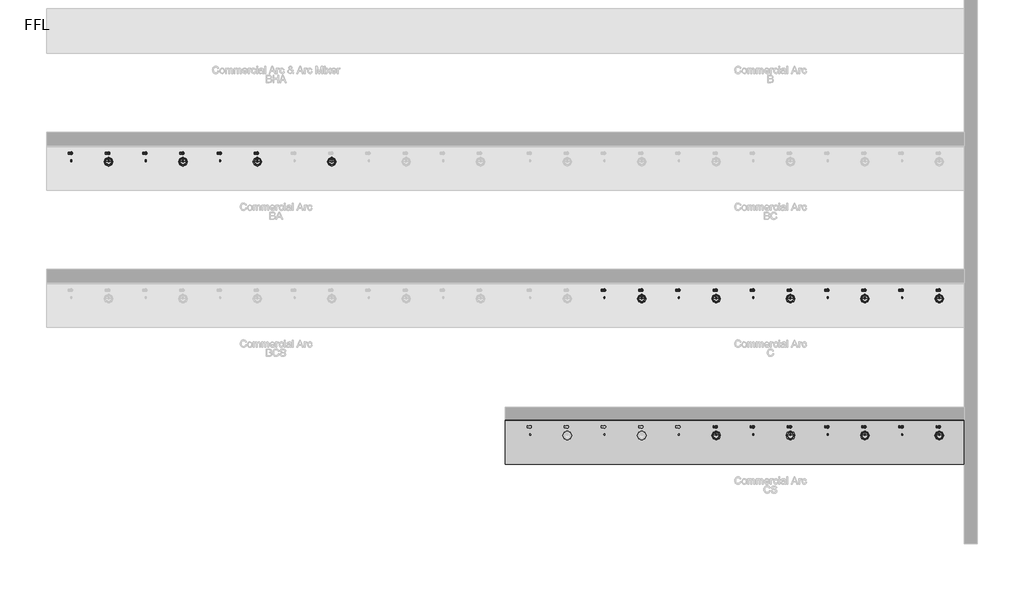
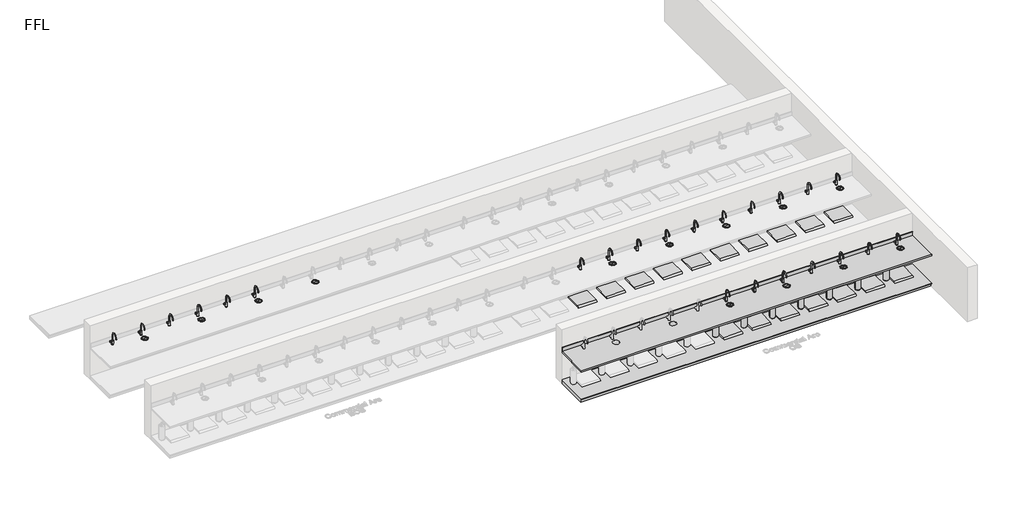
# One storey, part 3 of 10: 78 flow terminals, 2 furniture elements.
"""IFC4 building model written with IfcOpenShell, lengths in millimetres."""

from ifc_helpers import new_model, si_unit, frame, origin, place, context, project, spatial, polyline, circle_curve, transform, mapped, element, save
from ifc_brep_helpers import plane_surface, revolved_surface, advanced_brep
from components import flow_terminal_100_people_nickel_19c471c0, flow_terminal_100_people_matte_black_0dc622b1, bright_chrome_743c02cf, bright_chrome_7ff5033f, co2_gas_cylinder_20234e14, bcs_and_bc_6de74493, generic_plinth_900mm_24ad1541

model = new_model("IFC4")

# Units and contexts
model_context = context("Model", 3, world=origin())
ifc_project = project(units=[si_unit("LENGTHUNIT", "METRE", prefix="MILLI")], contexts=[model_context])

# Site, building, storey
site = spatial("IfcSite", under=ifc_project)
building = spatial("IfcBuilding", under=site)
storey = spatial("IfcBuildingStorey", under=building, Name="FFL", Elevation=0.0)

# Flow terminals
placement = place(None, origin())
flow_terminal_100_people_nickel_shape = flow_terminal_100_people_nickel_19c471c0(model_context)
element("IfcFlowTerminal", 1, ObjectType="PlumFixt_Zip Commercial_Arc_CS : 100 People - Bright Chrome", at=placement, inside=storey, context=model_context, shape_type="MappedRepresentation", body=[
    mapped(flow_terminal_100_people_nickel_shape, transform((11029.2647071, -3457.2606696, 0.0), x_axis=(1.0, 0.0, 0.0), y_axis=(0.0, 1.0, 0.0), z_axis=(0.0, 0.0, 1.0))),
])
element("IfcFlowTerminal", 2, ObjectType="PlumFixt_Zip Commercial_Arc_CS : 100 People - Gloss Black", at=placement, inside=storey, context=model_context, shape_type="MappedRepresentation", body=[
    mapped(flow_terminal_100_people_nickel_shape, transform((6529.2647071, -3457.2606696, 0.0), x_axis=(1.0, 0.0, 0.0), y_axis=(0.0, 1.0, 0.0), z_axis=(0.0, 0.0, 1.0))),
])
element("IfcFlowTerminal", 3, ObjectType="PlumFixt_Zip Commercial_Arc_C : 100 People - Gold", at=placement, inside=storey, context=model_context, shape_type="MappedRepresentation", body=[
    mapped(flow_terminal_100_people_nickel_shape, transform((7279.2647071, -697.2606696, 0.0), x_axis=(1.0, 0.0, 0.0), y_axis=(0.0, 1.0, 0.0), z_axis=(0.0, 0.0, 1.0))),
])
flow_terminal_100_people_matte_black_shape = flow_terminal_100_people_matte_black_0dc622b1(model_context)
element("IfcFlowTerminal", 4, ObjectType="PlumFixt_Zip Commercial_Arc_BA : 100 People - Gold", at=placement, inside=storey, context=model_context, shape_type="MappedRepresentation", body=[
    mapped(flow_terminal_100_people_matte_black_shape, transform((-1970.7352929, 2062.7393304, 0.0), x_axis=(1.0, 0.0, 0.0), y_axis=(0.0, 1.0, 0.0), z_axis=(0.0, 0.0, 1.0))),
])
element("IfcFlowTerminal", 5, ObjectType="PlumFixt_Zip Commercial_Arc_CS : 100 People - Gold", at=placement, inside=storey, context=model_context, shape_type="MappedRepresentation", body=[
    mapped(flow_terminal_100_people_nickel_shape, transform((7279.2647071, -3457.2606696, 0.0), x_axis=(1.0, 0.0, 0.0), y_axis=(0.0, 1.0, 0.0), z_axis=(0.0, 0.0, 1.0))),
])
element("IfcFlowTerminal", 6, ObjectType="PlumFixt_Zip Commercial_Arc_C : 100 People - Gunmetal", at=placement, inside=storey, context=model_context, shape_type="MappedRepresentation", body=[
    mapped(flow_terminal_100_people_nickel_shape, transform((8029.2647071, -697.2606696, 0.0), x_axis=(1.0, 0.0, 0.0), y_axis=(0.0, 1.0, 0.0), z_axis=(0.0, 0.0, 1.0))),
])
element("IfcFlowTerminal", 7, ObjectType="PlumFixt_Zip Commercial_Arc_CS : 100 People - Gunmetal", at=placement, inside=storey, context=model_context, shape_type="MappedRepresentation", body=[
    mapped(flow_terminal_100_people_nickel_shape, transform((8029.2647071, -3457.2606696, 0.0), x_axis=(1.0, 0.0, 0.0), y_axis=(0.0, 1.0, 0.0), z_axis=(0.0, 0.0, 1.0))),
])
element("IfcFlowTerminal", 8, ObjectType="PlumFixt_Zip Commercial_Arc_C : 100 People - Matte Black", at=placement, inside=storey, context=model_context, shape_type="MappedRepresentation", body=[
    mapped(flow_terminal_100_people_nickel_shape, transform((8779.2647071, -697.2606696, 0.0), x_axis=(1.0, 0.0, 0.0), y_axis=(0.0, 1.0, 0.0), z_axis=(0.0, 0.0, 1.0))),
])
element("IfcFlowTerminal", 9, ObjectType="PlumFixt_Zip Commercial_Arc_CS : 100 People - Matte Black", at=placement, inside=storey, context=model_context, shape_type="MappedRepresentation", body=[
    mapped(flow_terminal_100_people_nickel_shape, transform((8779.2647071, -3457.2606696, 0.0), x_axis=(1.0, 0.0, 0.0), y_axis=(0.0, 1.0, 0.0), z_axis=(0.0, 0.0, 1.0))),
])
element("IfcFlowTerminal", 10, ObjectType="PlumFixt_Zip Commercial_Arc_C : 100 People - Nickel", at=placement, inside=storey, context=model_context, shape_type="MappedRepresentation", body=[
    mapped(flow_terminal_100_people_nickel_shape, transform((9529.2647071, -697.2606696, 0.0), x_axis=(1.0, 0.0, 0.0), y_axis=(0.0, 1.0, 0.0), z_axis=(0.0, 0.0, 1.0))),
])
element("IfcFlowTerminal", 11, ObjectType="PlumFixt_Zip Commercial_Arc_CS : 100 People - Nickel", at=placement, inside=storey, context=model_context, shape_type="MappedRepresentation", body=[
    mapped(flow_terminal_100_people_nickel_shape, transform((9529.2647071, -3457.2606696, 0.0), x_axis=(1.0, 0.0, 0.0), y_axis=(0.0, 1.0, 0.0), z_axis=(0.0, 0.0, 1.0))),
])
element("IfcFlowTerminal", 12, ObjectType="PlumFixt_Zip Commercial_Arc_C : 100 People - Platinum", at=placement, inside=storey, context=model_context, shape_type="MappedRepresentation", body=[
    mapped(flow_terminal_100_people_nickel_shape, transform((10279.2647071, -697.2606696, 0.0), x_axis=(1.0, 0.0, 0.0), y_axis=(0.0, 1.0, 0.0), z_axis=(0.0, 0.0, 1.0))),
])
element("IfcFlowTerminal", 13, ObjectType="PlumFixt_Zip Commercial_Arc_CS : 100 People - Platinum", at=placement, inside=storey, context=model_context, shape_type="MappedRepresentation", body=[
    mapped(flow_terminal_100_people_nickel_shape, transform((10279.2647071, -3457.2606696, 0.0), x_axis=(1.0, 0.0, 0.0), y_axis=(0.0, 1.0, 0.0), z_axis=(0.0, 0.0, 1.0))),
])
element("IfcFlowTerminal", 14, ObjectType="PlumFixt_Zip Commercial_Arc_C : 100 People - Rose Gold", at=placement, inside=storey, context=model_context, shape_type="MappedRepresentation", body=[
    mapped(flow_terminal_100_people_nickel_shape, transform((11029.2647071, -697.2606696, 0.0), x_axis=(1.0, 0.0, 0.0), y_axis=(0.0, 1.0, 0.0), z_axis=(0.0, 0.0, 1.0))),
])
element("IfcFlowTerminal", 15, ObjectType="PlumFixt_Zip Commercial_Arc_C : 40 People - Brushed Nickel", at=placement, inside=storey, context=model_context, shape_type="MappedRepresentation", body=[
    mapped(flow_terminal_100_people_nickel_shape, transform((4279.2647071, -697.2606696, 0.0), x_axis=(1.0, 0.0, 0.0), y_axis=(0.0, 1.0, 0.0), z_axis=(0.0, 0.0, 1.0))),
])
element("IfcFlowTerminal", 16, ObjectType="PlumFixt_Zip Commercial_Arc_C : 40 People - Brushed Rose Gold", at=placement, inside=storey, context=model_context, shape_type="MappedRepresentation", body=[
    mapped(flow_terminal_100_people_nickel_shape, transform((5029.2647071, -697.2606696, 0.0), x_axis=(1.0, 0.0, 0.0), y_axis=(0.0, 1.0, 0.0), z_axis=(0.0, 0.0, 1.0))),
])
element("IfcFlowTerminal", 17, ObjectType="PlumFixt_Zip Commercial_Arc_C : 40 People - Brushed Rose Gold", at=placement, inside=storey, context=model_context, shape_type="MappedRepresentation", body=[
    mapped(flow_terminal_100_people_nickel_shape, transform((5779.2647071, -697.2606696, 0.0), x_axis=(1.0, 0.0, 0.0), y_axis=(0.0, 1.0, 0.0), z_axis=(0.0, 0.0, 1.0))),
])
element("IfcFlowTerminal", 18, ObjectType="PlumFixt_Zip Commercial_Arc_C : 40 People - Gloss Black", at=placement, inside=storey, context=model_context, shape_type="MappedRepresentation", body=[
    mapped(flow_terminal_100_people_nickel_shape, transform((6529.2647071, -697.2606696, 0.0), x_axis=(1.0, 0.0, 0.0), y_axis=(0.0, 1.0, 0.0), z_axis=(0.0, 0.0, 1.0))),
])
bright_chrome_shape = bright_chrome_743c02cf(model_context)
element("IfcFlowTerminal", 19, ObjectType="z_PlumFixt_Zip_Font : Bright Chrome", at=placement, inside=storey, context=model_context, shape_type="MappedRepresentation", body=[
    mapped(bright_chrome_shape, transform((-5720.7352929, 1991.2393304, 900.0), x_axis=(1.0000000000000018, 0.0, 0.0), y_axis=(0.0, 1.0000000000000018, 0.0), z_axis=(0.0, 0.0, 1.0))),
])
element("IfcFlowTerminal", 20, ObjectType="z_PlumFixt_Zip_Font : Bright Chrome", at=placement, inside=storey, context=model_context, shape_type="MappedRepresentation", body=[
    mapped(bright_chrome_shape, transform((-4220.7352929, 1991.2393304, 900.0), x_axis=(1.0000000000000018, 0.0, 0.0), y_axis=(0.0, 1.0000000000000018, 0.0), z_axis=(0.0, 0.0, 1.0))),
])
element("IfcFlowTerminal", 21, ObjectType="z_PlumFixt_Zip_Font : Bright Chrome", at=placement, inside=storey, context=model_context, shape_type="MappedRepresentation", body=[
    mapped(bright_chrome_shape, transform((-2720.7352929, 1991.2393304, 900.0), x_axis=(1.0000000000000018, 0.0, 0.0), y_axis=(0.0, 1.0000000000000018, 0.0), z_axis=(0.0, 0.0, 1.0))),
])
element("IfcFlowTerminal", 22, ObjectType="z_PlumFixt_Zip_Font : Bright Chrome", at=placement, inside=storey, context=model_context, shape_type="MappedRepresentation", body=[
    mapped(bright_chrome_shape, transform((-1220.7352929, 1991.2393304, 900.0), x_axis=(1.0000000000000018, 0.0, 0.0), y_axis=(0.0, 1.0000000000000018, 0.0), z_axis=(0.0, 0.0, 1.0))),
])
element("IfcFlowTerminal", 23, ObjectType="z_PlumFixt_Zip_Font : Bright Chrome", at=placement, inside=storey, context=model_context, shape_type="MappedRepresentation", body=[
    mapped(bright_chrome_shape, transform((6529.2647071, -3528.7606696, 900.0), x_axis=(1.0000000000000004, 0.0, 0.0), y_axis=(0.0, 1.0000000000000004, 0.0), z_axis=(0.0, 0.0, 1.0))),
])
element("IfcFlowTerminal", 24, ObjectType="z_PlumFixt_Zip_Font : Bright Chrome", at=placement, inside=storey, context=model_context, shape_type="MappedRepresentation", body=[
    mapped(bright_chrome_shape, transform((8029.2647071, -3528.7606696, 900.0), x_axis=(1.0000000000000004, 0.0, 0.0), y_axis=(0.0, 1.0000000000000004, 0.0), z_axis=(0.0, 0.0, 1.0))),
])
element("IfcFlowTerminal", 25, ObjectType="z_PlumFixt_Zip_Font : Bright Chrome", at=placement, inside=storey, context=model_context, shape_type="MappedRepresentation", body=[
    mapped(bright_chrome_shape, transform((9529.2647071, -3528.7606696, 900.0), x_axis=(1.0000000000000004, 0.0, 0.0), y_axis=(0.0, 1.0000000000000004, 0.0), z_axis=(0.0, 0.0, 1.0))),
])
element("IfcFlowTerminal", 26, ObjectType="z_PlumFixt_Zip_Font : Bright Chrome", at=placement, inside=storey, context=model_context, shape_type="MappedRepresentation", body=[
    mapped(bright_chrome_shape, transform((11029.2647071, -3528.7606696, 900.0), x_axis=(1.0000000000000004, 0.0, 0.0), y_axis=(0.0, 1.0000000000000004, 0.0), z_axis=(0.0, 0.0, 1.0))),
])
element("IfcFlowTerminal", 27, ObjectType="z_PlumFixt_Zip_Font : Bright Chrome", at=placement, inside=storey, context=model_context, shape_type="MappedRepresentation", body=[
    mapped(bright_chrome_shape, transform((5029.2647071, -768.7606696, 900.0), x_axis=(1.0000000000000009, 0.0, 0.0), y_axis=(0.0, 1.0000000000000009, 0.0), z_axis=(0.0, 0.0, 1.0))),
])
element("IfcFlowTerminal", 28, ObjectType="z_PlumFixt_Zip_Font : Bright Chrome", at=placement, inside=storey, context=model_context, shape_type="MappedRepresentation", body=[
    mapped(bright_chrome_shape, transform((6529.2647071, -768.7606696, 900.0), x_axis=(1.0000000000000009, 0.0, 0.0), y_axis=(0.0, 1.0000000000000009, 0.0), z_axis=(0.0, 0.0, 1.0))),
])
element("IfcFlowTerminal", 29, ObjectType="z_PlumFixt_Zip_Font : Bright Chrome", at=placement, inside=storey, context=model_context, shape_type="MappedRepresentation", body=[
    mapped(bright_chrome_shape, transform((8029.2647071, -768.7606696, 900.0), x_axis=(1.0000000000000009, 0.0, 0.0), y_axis=(0.0, 1.0000000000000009, 0.0), z_axis=(0.0, 0.0, 1.0))),
])
element("IfcFlowTerminal", 30, ObjectType="z_PlumFixt_Zip_Font : Bright Chrome", at=placement, inside=storey, context=model_context, shape_type="MappedRepresentation", body=[
    mapped(bright_chrome_shape, transform((9529.2647071, -768.7606696, 900.0), x_axis=(1.0000000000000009, 0.0, 0.0), y_axis=(0.0, 1.0000000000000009, 0.0), z_axis=(0.0, 0.0, 1.0))),
])
element("IfcFlowTerminal", 31, ObjectType="z_PlumFixt_Zip_Font : Bright Chrome", at=placement, inside=storey, context=model_context, shape_type="MappedRepresentation", body=[
    mapped(bright_chrome_shape, transform((11029.2647071, -768.7606696, 900.0), x_axis=(1.0000000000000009, 0.0, 0.0), y_axis=(0.0, 1.0000000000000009, 0.0), z_axis=(0.0, 0.0, 1.0))),
])
bright_chrome_2_shape = bright_chrome_7ff5033f(model_context)
element("IfcFlowTerminal", 32, ObjectType="z_PlumFixt_Zip_Arc : Bright Chrome", at=placement, inside=storey, context=model_context, shape_type="MappedRepresentation", body=[
    mapped(bright_chrome_2_shape, transform((-6487.7352929, 2090.7393304, 900.0), x_axis=(1.0000000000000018, 0.0, 0.0), y_axis=(0.0, 1.0000000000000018, 0.0), z_axis=(0.0, 0.0, 1.0))),
])
element("IfcFlowTerminal", 33, ObjectType="z_PlumFixt_Zip_Arc : Bright Chrome", at=placement, inside=storey, context=model_context, shape_type="MappedRepresentation", body=[
    mapped(bright_chrome_2_shape, transform((11012.2647071, -3429.2606696, 900.0), x_axis=(1.0000000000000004, 0.0, 0.0), y_axis=(0.0, 1.0000000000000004, 0.0), z_axis=(0.0, 0.0, 1.0))),
])
element("IfcFlowTerminal", 34, ObjectType="z_PlumFixt_Zip_Arc : Brushed Chrome", at=placement, inside=storey, context=model_context, shape_type="MappedRepresentation", body=[
    mapped(bright_chrome_2_shape, transform((-5737.7352929, 2090.7393304, 900.0), x_axis=(1.0000000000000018, 0.0, 0.0), y_axis=(0.0, 1.0000000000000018, 0.0), z_axis=(0.0, 0.0, 1.0))),
])
element("IfcFlowTerminal", 35, ObjectType="z_PlumFixt_Zip_Arc : Brushed Gold", at=placement, inside=storey, context=model_context, shape_type="MappedRepresentation", body=[
    mapped(bright_chrome_2_shape, transform((-4987.7352929, 2090.7393304, 900.0), x_axis=(1.0000000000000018, 0.0, 0.0), y_axis=(0.0, 1.0000000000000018, 0.0), z_axis=(0.0, 0.0, 1.0))),
])
element("IfcFlowTerminal", 36, ObjectType="z_PlumFixt_Zip_Arc : Brushed Nickel", at=placement, inside=storey, context=model_context, shape_type="MappedRepresentation", body=[
    mapped(bright_chrome_2_shape, transform((-4237.7352929, 2090.7393304, 900.0), x_axis=(1.0000000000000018, 0.0, 0.0), y_axis=(0.0, 1.0000000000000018, 0.0), z_axis=(0.0, 0.0, 1.0))),
])
element("IfcFlowTerminal", 37, ObjectType="z_PlumFixt_Zip_Arc : Brushed Rose Gold", at=placement, inside=storey, context=model_context, shape_type="MappedRepresentation", body=[
    mapped(bright_chrome_2_shape, transform((-3487.7352929, 2090.7393304, 900.0), x_axis=(1.0000000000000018, 0.0, 0.0), y_axis=(0.0, 1.0000000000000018, 0.0), z_axis=(0.0, 0.0, 1.0))),
])
co2_gas_cylinder_shape = co2_gas_cylinder_20234e14(model_context)
element("IfcFlowTerminal", 38, ObjectType="z_PlumFixt_Zip_CO2 Gas Cylinder : CO2 Gas Cylinder", at=placement, inside=storey, context=model_context, shape_type="MappedRepresentation", body=[
    mapped(co2_gas_cylinder_shape, transform((6191.2647071, -3536.7606696, 100.0), x_axis=(-1.0, 0.0, 0.0), y_axis=(0.0, -1.0, 0.0), z_axis=(0.0, 0.0, 1.0))),
])
element("IfcFlowTerminal", 39, ObjectType="z_PlumFixt_Zip_CO2 Gas Cylinder : CO2 Gas Cylinder", at=placement, inside=storey, context=model_context, shape_type="MappedRepresentation", body=[
    mapped(co2_gas_cylinder_shape, transform((6941.2647071, -3536.7606696, 100.0), x_axis=(-1.0, 0.0, 0.0), y_axis=(0.0, -1.0, 0.0), z_axis=(0.0, 0.0, 1.0))),
])
element("IfcFlowTerminal", 40, ObjectType="z_PlumFixt_Zip_CO2 Gas Cylinder : CO2 Gas Cylinder", at=placement, inside=storey, context=model_context, shape_type="MappedRepresentation", body=[
    mapped(co2_gas_cylinder_shape, transform((7691.2647071, -3536.7606696, 100.0), x_axis=(-1.0, 0.0, 0.0), y_axis=(0.0, -1.0, 0.0), z_axis=(0.0, 0.0, 1.0))),
])
element("IfcFlowTerminal", 41, ObjectType="z_PlumFixt_Zip_CO2 Gas Cylinder : CO2 Gas Cylinder", at=placement, inside=storey, context=model_context, shape_type="MappedRepresentation", body=[
    mapped(co2_gas_cylinder_shape, transform((8441.2647071, -3536.7606696, 100.0), x_axis=(-1.0, 0.0, 0.0), y_axis=(0.0, -1.0, 0.0), z_axis=(0.0, 0.0, 1.0))),
])
element("IfcFlowTerminal", 42, ObjectType="z_PlumFixt_Zip_CO2 Gas Cylinder : CO2 Gas Cylinder", at=placement, inside=storey, context=model_context, shape_type="MappedRepresentation", body=[
    mapped(co2_gas_cylinder_shape, transform((9191.2647071, -3536.7606696, 100.0), x_axis=(-1.0, 0.0, 0.0), y_axis=(0.0, -1.0, 0.0), z_axis=(0.0, 0.0, 1.0))),
])
element("IfcFlowTerminal", 43, ObjectType="z_PlumFixt_Zip_CO2 Gas Cylinder : CO2 Gas Cylinder", at=placement, inside=storey, context=model_context, shape_type="MappedRepresentation", body=[
    mapped(co2_gas_cylinder_shape, transform((9941.2647071, -3536.7606696, 100.0), x_axis=(-1.0, 0.0, 0.0), y_axis=(0.0, -1.0, 0.0), z_axis=(0.0, 0.0, 1.0))),
])
element("IfcFlowTerminal", 44, ObjectType="z_PlumFixt_Zip_CO2 Gas Cylinder : CO2 Gas Cylinder", at=placement, inside=storey, context=model_context, shape_type="MappedRepresentation", body=[
    mapped(co2_gas_cylinder_shape, transform((10691.2647071, -3536.7606696, 100.0), x_axis=(-1.0, 0.0, 0.0), y_axis=(0.0, -1.0, 0.0), z_axis=(0.0, 0.0, 1.0))),
])
bcs_and_bc_shape = bcs_and_bc_6de74493(model_context)
element("IfcFlowTerminal", 45, ObjectType="z_PlumFixt_Zip_Vent Tray : CS and C", at=placement, inside=storey, context=model_context, shape_type="MappedRepresentation", body=[
    mapped(bcs_and_bc_shape, transform((4279.2647071, -574.2606696, 100.0), x_axis=(1.0, 0.0, 0.0), y_axis=(0.0, 1.0, 0.0), z_axis=(0.0, 0.0, 1.0))),
])
element("IfcFlowTerminal", 46, ObjectType="z_PlumFixt_Zip_Vent Tray : CS and C", at=placement, inside=storey, context=model_context, shape_type="MappedRepresentation", body=[
    mapped(bcs_and_bc_shape, transform((5029.2647071, -574.2606696, 100.0), x_axis=(1.0, 0.0, 0.0), y_axis=(0.0, 1.0, 0.0), z_axis=(0.0, 0.0, 1.0))),
])
element("IfcFlowTerminal", 47, ObjectType="z_PlumFixt_Zip_Vent Tray : CS and C", at=placement, inside=storey, context=model_context, shape_type="MappedRepresentation", body=[
    mapped(bcs_and_bc_shape, transform((5779.2647071, -574.2606696, 100.0), x_axis=(1.0, 0.0, 0.0), y_axis=(0.0, 1.0, 0.0), z_axis=(0.0, 0.0, 1.0))),
])
element("IfcFlowTerminal", 48, ObjectType="z_PlumFixt_Zip_Vent Tray : CS and C", at=placement, inside=storey, context=model_context, shape_type="MappedRepresentation", body=[
    mapped(bcs_and_bc_shape, transform((6529.2647071, -574.2606696, 100.0), x_axis=(1.0, 0.0, 0.0), y_axis=(0.0, 1.0, 0.0), z_axis=(0.0, 0.0, 1.0))),
])
element("IfcFlowTerminal", 49, ObjectType="z_PlumFixt_Zip_Vent Tray : CS and C", at=placement, inside=storey, context=model_context, shape_type="MappedRepresentation", body=[
    mapped(bcs_and_bc_shape, transform((7279.2647071, -574.2606696, 100.0), x_axis=(1.0, 0.0, 0.0), y_axis=(0.0, 1.0, 0.0), z_axis=(0.0, 0.0, 1.0))),
])
element("IfcFlowTerminal", 50, ObjectType="z_PlumFixt_Zip_Vent Tray : CS and C", at=placement, inside=storey, context=model_context, shape_type="MappedRepresentation", body=[
    mapped(bcs_and_bc_shape, transform((8029.2647071, -574.2606696, 100.0), x_axis=(1.0, 0.0, 0.0), y_axis=(0.0, 1.0, 0.0), z_axis=(0.0, 0.0, 1.0))),
])
element("IfcFlowTerminal", 51, ObjectType="z_PlumFixt_Zip_Vent Tray : CS and C", at=placement, inside=storey, context=model_context, shape_type="MappedRepresentation", body=[
    mapped(bcs_and_bc_shape, transform((8779.2647071, -574.2606696, 100.0), x_axis=(1.0, 0.0, 0.0), y_axis=(0.0, 1.0, 0.0), z_axis=(0.0, 0.0, 1.0))),
])
element("IfcFlowTerminal", 52, ObjectType="z_PlumFixt_Zip_Vent Tray : CS and C", at=placement, inside=storey, context=model_context, shape_type="MappedRepresentation", body=[
    mapped(bcs_and_bc_shape, transform((9529.2647071, -574.2606696, 100.0), x_axis=(1.0, 0.0, 0.0), y_axis=(0.0, 1.0, 0.0), z_axis=(0.0, 0.0, 1.0))),
])
element("IfcFlowTerminal", 53, ObjectType="z_PlumFixt_Zip_Vent Tray : CS and C", at=placement, inside=storey, context=model_context, shape_type="MappedRepresentation", body=[
    mapped(bcs_and_bc_shape, transform((10279.2647071, -574.2606696, 100.0), x_axis=(1.0, 0.0, 0.0), y_axis=(0.0, 1.0, 0.0), z_axis=(0.0, 0.0, 1.0))),
])
element("IfcFlowTerminal", 54, ObjectType="z_PlumFixt_Zip_Vent Tray : CS and C", at=placement, inside=storey, context=model_context, shape_type="MappedRepresentation", body=[
    mapped(bcs_and_bc_shape, transform((11029.2647071, -574.2606696, 100.0), x_axis=(1.0, 0.0, 0.0), y_axis=(0.0, 1.0, 0.0), z_axis=(0.0, 0.0, 1.0))),
])
element("IfcFlowTerminal", 55, ObjectType="z_PlumFixt_Zip_Vent Tray : CS and C", at=placement, inside=storey, context=model_context, shape_type="MappedRepresentation", body=[
    mapped(bcs_and_bc_shape, transform((6529.2647071, -3334.2606696, 100.0), x_axis=(1.0, 0.0, 0.0), y_axis=(0.0, 1.0, 0.0), z_axis=(0.0, 0.0, 1.0))),
])
element("IfcFlowTerminal", 56, ObjectType="z_PlumFixt_Zip_Vent Tray : CS and C", at=placement, inside=storey, context=model_context, shape_type="MappedRepresentation", body=[
    mapped(bcs_and_bc_shape, transform((7279.2647071, -3334.2606696, 100.0), x_axis=(1.0, 0.0, 0.0), y_axis=(0.0, 1.0, 0.0), z_axis=(0.0, 0.0, 1.0))),
])
element("IfcFlowTerminal", 57, ObjectType="z_PlumFixt_Zip_Vent Tray : CS and C", at=placement, inside=storey, context=model_context, shape_type="MappedRepresentation", body=[
    mapped(bcs_and_bc_shape, transform((8029.2647071, -3334.2606696, 100.0), x_axis=(1.0, 0.0, 0.0), y_axis=(0.0, 1.0, 0.0), z_axis=(0.0, 0.0, 1.0))),
])
element("IfcFlowTerminal", 58, ObjectType="z_PlumFixt_Zip_Vent Tray : CS and C", at=placement, inside=storey, context=model_context, shape_type="MappedRepresentation", body=[
    mapped(bcs_and_bc_shape, transform((8779.2647071, -3334.2606696, 100.0), x_axis=(1.0, 0.0, 0.0), y_axis=(0.0, 1.0, 0.0), z_axis=(0.0, 0.0, 1.0))),
])
element("IfcFlowTerminal", 59, ObjectType="z_PlumFixt_Zip_Vent Tray : CS and C", at=placement, inside=storey, context=model_context, shape_type="MappedRepresentation", body=[
    mapped(bcs_and_bc_shape, transform((9529.2647071, -3334.2606696, 100.0), x_axis=(1.0, 0.0, 0.0), y_axis=(0.0, 1.0, 0.0), z_axis=(0.0, 0.0, 1.0))),
])
element("IfcFlowTerminal", 60, ObjectType="z_PlumFixt_Zip_Vent Tray : CS and C", at=placement, inside=storey, context=model_context, shape_type="MappedRepresentation", body=[
    mapped(bcs_and_bc_shape, transform((10279.2647071, -3334.2606696, 100.0), x_axis=(1.0, 0.0, 0.0), y_axis=(0.0, 1.0, 0.0), z_axis=(0.0, 0.0, 1.0))),
])
element("IfcFlowTerminal", 61, ObjectType="z_PlumFixt_Zip_Vent Tray : CS and C", at=placement, inside=storey, context=model_context, shape_type="MappedRepresentation", body=[
    mapped(bcs_and_bc_shape, transform((11029.2647071, -3334.2606696, 100.0), x_axis=(1.0, 0.0, 0.0), y_axis=(0.0, 1.0, 0.0), z_axis=(0.0, 0.0, 1.0))),
])
element("IfcFlowTerminal", 62, ObjectType="z_PlumFixt_Zip_Arc : Gloss Black", at=placement, inside=storey, context=model_context, shape_type="MappedRepresentation", body=[
    mapped(bright_chrome_2_shape, transform((-2737.7352929, 2090.7393304, 900.0), x_axis=(1.0000000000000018, 0.0, 0.0), y_axis=(0.0, 1.0000000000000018, 0.0), z_axis=(0.0, 0.0, 1.0))),
])
element("IfcFlowTerminal", 63, ObjectType="z_PlumFixt_Zip_Arc : Gloss Black", at=placement, inside=storey, context=model_context, shape_type="MappedRepresentation", body=[
    mapped(bright_chrome_2_shape, transform((6512.2647071, -3429.2606696, 900.0), x_axis=(1.0000000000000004, 0.0, 0.0), y_axis=(0.0, 1.0000000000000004, 0.0), z_axis=(0.0, 0.0, 1.0))),
])
element("IfcFlowTerminal", 64, ObjectType="z_PlumFixt_Zip_Arc : Gold", at=placement, inside=storey, context=model_context, shape_type="MappedRepresentation", body=[
    mapped(bright_chrome_2_shape, transform((7262.2647071, -3429.2606696, 900.0), x_axis=(1.0000000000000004, 0.0, 0.0), y_axis=(0.0, 1.0000000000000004, 0.0), z_axis=(0.0, 0.0, 1.0))),
])
element("IfcFlowTerminal", 65, ObjectType="z_PlumFixt_Zip_Arc : Gunmetal", at=placement, inside=storey, context=model_context, shape_type="MappedRepresentation", body=[
    mapped(bright_chrome_2_shape, transform((5012.2647071, -669.2606696, 900.0), x_axis=(1.0000000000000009, 0.0, 0.0), y_axis=(0.0, 1.0000000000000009, 0.0), z_axis=(0.0, 0.0, 1.0))),
])
element("IfcFlowTerminal", 66, ObjectType="z_PlumFixt_Zip_Arc : Gunmetal", at=placement, inside=storey, context=model_context, shape_type="MappedRepresentation", body=[
    mapped(bright_chrome_2_shape, transform((6512.2647071, -669.2606696, 900.0), x_axis=(1.0000000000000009, 0.0, 0.0), y_axis=(0.0, 1.0000000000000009, 0.0), z_axis=(0.0, 0.0, 1.0))),
])
element("IfcFlowTerminal", 67, ObjectType="z_PlumFixt_Zip_Arc : Gunmetal", at=placement, inside=storey, context=model_context, shape_type="MappedRepresentation", body=[
    mapped(bright_chrome_2_shape, transform((8012.2647071, -669.2606696, 900.0), x_axis=(1.0000000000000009, 0.0, 0.0), y_axis=(0.0, 1.0000000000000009, 0.0), z_axis=(0.0, 0.0, 1.0))),
])
element("IfcFlowTerminal", 68, ObjectType="z_PlumFixt_Zip_Arc : Gunmetal", at=placement, inside=storey, context=model_context, shape_type="MappedRepresentation", body=[
    mapped(bright_chrome_2_shape, transform((9512.2647071, -669.2606696, 900.0), x_axis=(1.0000000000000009, 0.0, 0.0), y_axis=(0.0, 1.0000000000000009, 0.0), z_axis=(0.0, 0.0, 1.0))),
])
element("IfcFlowTerminal", 69, ObjectType="z_PlumFixt_Zip_Arc : Gunmetal", at=placement, inside=storey, context=model_context, shape_type="MappedRepresentation", body=[
    mapped(bright_chrome_2_shape, transform((11012.2647071, -669.2606696, 900.0), x_axis=(1.0000000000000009, 0.0, 0.0), y_axis=(0.0, 1.0000000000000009, 0.0), z_axis=(0.0, 0.0, 1.0))),
])
element("IfcFlowTerminal", 70, ObjectType="z_PlumFixt_Zip_Arc : Gunmetal", at=placement, inside=storey, context=model_context, shape_type="MappedRepresentation", body=[
    mapped(bright_chrome_2_shape, transform((8012.2647071, -3429.2606696, 900.0), x_axis=(1.0000000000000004, 0.0, 0.0), y_axis=(0.0, 1.0000000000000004, 0.0), z_axis=(0.0, 0.0, 1.0))),
])
element("IfcFlowTerminal", 71, ObjectType="z_PlumFixt_Zip_Arc : Gunmetal", at=placement, inside=storey, context=model_context, shape_type="MappedRepresentation", body=[
    mapped(bright_chrome_2_shape, transform((4262.2647071, -669.2606696, 900.0), x_axis=(1.0000000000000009, 0.0, 0.0), y_axis=(0.0, 1.0000000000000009, 0.0), z_axis=(0.0, 0.0, 1.0))),
])
element("IfcFlowTerminal", 72, ObjectType="z_PlumFixt_Zip_Arc : Gunmetal", at=placement, inside=storey, context=model_context, shape_type="MappedRepresentation", body=[
    mapped(bright_chrome_2_shape, transform((5762.2647071, -669.2606696, 900.0), x_axis=(1.0000000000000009, 0.0, 0.0), y_axis=(0.0, 1.0000000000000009, 0.0), z_axis=(0.0, 0.0, 1.0))),
])
element("IfcFlowTerminal", 73, ObjectType="z_PlumFixt_Zip_Arc : Gunmetal", at=placement, inside=storey, context=model_context, shape_type="MappedRepresentation", body=[
    mapped(bright_chrome_2_shape, transform((7262.2647071, -669.2606696, 900.0), x_axis=(1.0000000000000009, 0.0, 0.0), y_axis=(0.0, 1.0000000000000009, 0.0), z_axis=(0.0, 0.0, 1.0))),
])
element("IfcFlowTerminal", 74, ObjectType="z_PlumFixt_Zip_Arc : Gunmetal", at=placement, inside=storey, context=model_context, shape_type="MappedRepresentation", body=[
    mapped(bright_chrome_2_shape, transform((8762.2647071, -669.2606696, 900.0), x_axis=(1.0000000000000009, 0.0, 0.0), y_axis=(0.0, 1.0000000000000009, 0.0), z_axis=(0.0, 0.0, 1.0))),
])
element("IfcFlowTerminal", 75, ObjectType="z_PlumFixt_Zip_Arc : Gunmetal", at=placement, inside=storey, context=model_context, shape_type="MappedRepresentation", body=[
    mapped(bright_chrome_2_shape, transform((10262.2647071, -669.2606696, 900.0), x_axis=(1.0000000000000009, 0.0, 0.0), y_axis=(0.0, 1.0000000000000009, 0.0), z_axis=(0.0, 0.0, 1.0))),
])
element("IfcFlowTerminal", 76, ObjectType="z_PlumFixt_Zip_Arc : Matte Black", at=placement, inside=storey, context=model_context, shape_type="MappedRepresentation", body=[
    mapped(bright_chrome_2_shape, transform((8762.2647071, -3429.2606696, 900.0), x_axis=(1.0000000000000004, 0.0, 0.0), y_axis=(0.0, 1.0000000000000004, 0.0), z_axis=(0.0, 0.0, 1.0))),
])
element("IfcFlowTerminal", 77, ObjectType="z_PlumFixt_Zip_Arc : Nickel", at=placement, inside=storey, context=model_context, shape_type="MappedRepresentation", body=[
    mapped(bright_chrome_2_shape, transform((9512.2647071, -3429.2606696, 900.0), x_axis=(1.0000000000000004, 0.0, 0.0), y_axis=(0.0, 1.0000000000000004, 0.0), z_axis=(0.0, 0.0, 1.0))),
])
element("IfcFlowTerminal", 78, ObjectType="z_PlumFixt_Zip_Arc : Platinum", at=placement, inside=storey, context=model_context, shape_type="MappedRepresentation", body=[
    mapped(bright_chrome_2_shape, transform((10262.2647071, -3429.2606696, 900.0), x_axis=(1.0000000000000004, 0.0, 0.0), y_axis=(0.0, 1.0000000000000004, 0.0), z_axis=(0.0, 0.0, 1.0))),
])

# Furniture
element("IfcFurniture", 79, ObjectType="Counter Top : 900mm Depth", at=placement, inside=storey, context=model_context, shape_type="AdvancedBrep", body=[
    advanced_brep(
    [(2280.2647071, -4091.7606696, 900.0), (11530.2647071, -4091.7606696, 900.0), (11530.2647071, -3210.8106696, 900.0), (2280.2647071, -3210.8106696, 900.0), (2756.2647071, -3341.7606696, 900.0), (2804.2647071, -3341.7606696, 900.0), (4256.2647071, -3341.7606696, 900.0), (4304.2647071, -3341.7606696, 900.0), (5006.2647071, -3341.7606696, 900.0), (5054.2647071, -3341.7606696, 900.0), (5098.4647071, -3513.7503538, 900.0), (4962.0647071, -3513.7503538, 900.0), (5756.2647071, -3341.7606696, 900.0), (5804.2647071, -3341.7606696, 900.0), (6506.2647071, -3341.7606696, 900.0), (6554.2647071, -3341.7606696, 900.0), (6598.4647071, -3513.7503538, 900.0), (6462.0647071, -3513.7503538, 900.0), (7256.2647071, -3341.7606696, 900.0), (7304.2647071, -3341.7606696, 900.0), (8006.2647071, -3341.7606696, 900.0), (8054.2647071, -3341.7606696, 900.0), (8098.4647071, -3513.7503538, 900.0), (7962.0647071, -3513.7503538, 900.0), (8756.2647071, -3341.7606696, 900.0), (8804.2647071, -3341.7606696, 900.0), (9506.2647071, -3341.7606696, 900.0), (9554.2647071, -3341.7606696, 900.0), (9598.4647071, -3513.7503538, 900.0), (9462.0647071, -3513.7503538, 900.0), (10256.2647071, -3341.7606696, 900.0), (10304.2647071, -3341.7606696, 900.0), (11006.2647071, -3341.7606696, 900.0), (11054.2647071, -3341.7606696, 900.0), (11098.4647071, -3513.7503538, 900.0), (10962.0647071, -3513.7503538, 900.0), (3506.2647071, -3341.7606696, 900.0), (3554.2647071, -3341.7606696, 900.0), (3598.4647071, -3513.7503538, 900.0), (3462.0647071, -3513.7503538, 900.0), (11530.2647071, -3191.7606696, 860.0), (11530.2647071, -4091.7606696, 860.0), (2280.2647071, -4091.7606696, 860.0), (2280.2647071, -3191.7606696, 860.0), (2804.2647071, -3341.7606696, 860.0), (2756.2647071, -3341.7606696, 860.0), (4304.2647071, -3341.7606696, 860.0), (4256.2647071, -3341.7606696, 860.0), (5054.2647071, -3341.7606696, 860.0), (5006.2647071, -3341.7606696, 860.0), (4962.0647071, -3513.7503538, 860.0), (5098.4647071, -3513.7503538, 860.0), (5804.2647071, -3341.7606696, 860.0), (5756.2647071, -3341.7606696, 860.0), (6554.2647071, -3341.7606696, 860.0), (6506.2647071, -3341.7606696, 860.0), (6462.0647071, -3513.7503538, 860.0), (6598.4647071, -3513.7503538, 860.0), (7304.2647071, -3341.7606696, 860.0), (7256.2647071, -3341.7606696, 860.0), (8054.2647071, -3341.7606696, 860.0), (8006.2647071, -3341.7606696, 860.0), (7962.0647071, -3513.7503538, 860.0), (8098.4647071, -3513.7503538, 860.0), (8804.2647071, -3341.7606696, 860.0), (8756.2647071, -3341.7606696, 860.0), (9554.2647071, -3341.7606696, 860.0), (9506.2647071, -3341.7606696, 860.0), (9462.0647071, -3513.7503538, 860.0), (9598.4647071, -3513.7503538, 860.0), (10304.2647071, -3341.7606696, 860.0), (10256.2647071, -3341.7606696, 860.0), (11054.2647071, -3341.7606696, 860.0), (11006.2647071, -3341.7606696, 860.0), (10962.0647071, -3513.7503538, 860.0), (11098.4647071, -3513.7503538, 860.0), (3554.2647071, -3341.7606696, 860.0), (3506.2647071, -3341.7606696, 860.0), (3462.0647071, -3513.7503538, 860.0), (3598.4647071, -3513.7503538, 860.0), (2280.2647071, -3191.7606696, 1001.6), (11530.2647071, -3191.7606696, 1001.6), (2280.2647071, -3210.8106696, 1001.6), (11530.2647071, -3210.8106696, 1001.6)],
    [
        (0, 1),
        (1, 2),
        (2, 3),
        (3, 0),
        (4, 5, circle_curve(frame((2780.2647071, -3341.7606696, 900.0), z_axis=(0.0, 0.0, -1.0), x_axis=(-1.0000000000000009, 0.0, 0.0)), 24.0)),
        (5, 4, circle_curve(frame((2780.2647071, -3341.7606696, 900.0), z_axis=(0.0, 0.0, -1.0), x_axis=(-1.0000000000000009, 0.0, 0.0)), 24.0)),
        (6, 7, circle_curve(frame((4280.2647071, -3341.7606696, 900.0), z_axis=(0.0, 0.0, -1.0), x_axis=(-1.0000000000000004, 0.0, 0.0)), 24.0)),
        (7, 6, circle_curve(frame((4280.2647071, -3341.7606696, 900.0), z_axis=(0.0, 0.0, -1.0), x_axis=(-1.0000000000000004, 0.0, 0.0)), 24.0)),
        (8, 9, circle_curve(frame((5030.2647071, -3341.7606696, 900.0), z_axis=(0.0, 0.0, -1.0), x_axis=(-1.0000000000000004, 0.0, 0.0)), 24.0)),
        (9, 8, circle_curve(frame((5030.2647071, -3341.7606696, 900.0), z_axis=(0.0, 0.0, -1.0), x_axis=(-1.0000000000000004, 0.0, 0.0)), 24.0)),
        (10, 11, circle_curve(frame((5030.2647071, -3513.7503538, 900.0), z_axis=(0.0, 0.0, -1.0), x_axis=(-1.0000000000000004, 0.0, 0.0)), 68.2)),
        (11, 10, circle_curve(frame((5030.2647071, -3513.7503538, 900.0), z_axis=(0.0, 0.0, -1.0), x_axis=(-1.0000000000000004, 0.0, 0.0)), 68.2)),
        (12, 13, circle_curve(frame((5780.2647071, -3341.7606696, 900.0), z_axis=(0.0, 0.0, -1.0), x_axis=(-1.0000000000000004, 0.0, 0.0)), 24.0)),
        (13, 12, circle_curve(frame((5780.2647071, -3341.7606696, 900.0), z_axis=(0.0, 0.0, -1.0), x_axis=(-1.0000000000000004, 0.0, 0.0)), 24.0)),
        (14, 15, circle_curve(frame((6530.2647071, -3341.7606696, 900.0), z_axis=(0.0, 0.0, -1.0), x_axis=(-1.0000000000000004, 0.0, 0.0)), 24.0)),
        (15, 14, circle_curve(frame((6530.2647071, -3341.7606696, 900.0), z_axis=(0.0, 0.0, -1.0), x_axis=(-1.0000000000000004, 0.0, 0.0)), 24.0)),
        (16, 17, circle_curve(frame((6530.2647071, -3513.7503538, 900.0), z_axis=(0.0, 0.0, -1.0), x_axis=(-1.0000000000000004, 0.0, 0.0)), 68.2)),
        (17, 16, circle_curve(frame((6530.2647071, -3513.7503538, 900.0), z_axis=(0.0, 0.0, -1.0), x_axis=(-1.0000000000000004, 0.0, 0.0)), 68.2)),
        (18, 19, circle_curve(frame((7280.2647071, -3341.7606696, 900.0), z_axis=(0.0, 0.0, -1.0), x_axis=(-1.0000000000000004, 0.0, 0.0)), 24.0)),
        (19, 18, circle_curve(frame((7280.2647071, -3341.7606696, 900.0), z_axis=(0.0, 0.0, -1.0), x_axis=(-1.0000000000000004, 0.0, 0.0)), 24.0)),
        (20, 21, circle_curve(frame((8030.2647071, -3341.7606696, 900.0), z_axis=(0.0, 0.0, -1.0), x_axis=(-1.0000000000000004, 0.0, 0.0)), 24.0)),
        (21, 20, circle_curve(frame((8030.2647071, -3341.7606696, 900.0), z_axis=(0.0, 0.0, -1.0), x_axis=(-1.0000000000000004, 0.0, 0.0)), 24.0)),
        (22, 23, circle_curve(frame((8030.2647071, -3513.7503538, 900.0), z_axis=(0.0, 0.0, -1.0), x_axis=(-1.0000000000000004, 0.0, 0.0)), 68.2)),
        (23, 22, circle_curve(frame((8030.2647071, -3513.7503538, 900.0), z_axis=(0.0, 0.0, -1.0), x_axis=(-1.0000000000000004, 0.0, 0.0)), 68.2)),
        (24, 25, circle_curve(frame((8780.2647071, -3341.7606696, 900.0), z_axis=(0.0, 0.0, -1.0), x_axis=(-1.0000000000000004, 0.0, 0.0)), 24.0)),
        (25, 24, circle_curve(frame((8780.2647071, -3341.7606696, 900.0), z_axis=(0.0, 0.0, -1.0), x_axis=(-1.0000000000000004, 0.0, 0.0)), 24.0)),
        (26, 27, circle_curve(frame((9530.2647071, -3341.7606696, 900.0), z_axis=(0.0, 0.0, -1.0), x_axis=(-1.0000000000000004, 0.0, 0.0)), 24.0)),
        (27, 26, circle_curve(frame((9530.2647071, -3341.7606696, 900.0), z_axis=(0.0, 0.0, -1.0), x_axis=(-1.0000000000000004, 0.0, 0.0)), 24.0)),
        (28, 29, circle_curve(frame((9530.2647071, -3513.7503538, 900.0), z_axis=(0.0, 0.0, -1.0), x_axis=(-1.0000000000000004, 0.0, 0.0)), 68.2)),
        (29, 28, circle_curve(frame((9530.2647071, -3513.7503538, 900.0), z_axis=(0.0, 0.0, -1.0), x_axis=(-1.0000000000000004, 0.0, 0.0)), 68.2)),
        (30, 31, circle_curve(frame((10280.2647071, -3341.7606696, 900.0), z_axis=(0.0, 0.0, -1.0), x_axis=(-1.0000000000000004, 0.0, 0.0)), 24.0)),
        (31, 30, circle_curve(frame((10280.2647071, -3341.7606696, 900.0), z_axis=(0.0, 0.0, -1.0), x_axis=(-1.0000000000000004, 0.0, 0.0)), 24.0)),
        (32, 33, circle_curve(frame((11030.2647071, -3341.7606696, 900.0), z_axis=(0.0, 0.0, -1.0), x_axis=(-1.0000000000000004, 0.0, 0.0)), 24.0)),
        (33, 32, circle_curve(frame((11030.2647071, -3341.7606696, 900.0), z_axis=(0.0, 0.0, -1.0), x_axis=(-1.0000000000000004, 0.0, 0.0)), 24.0)),
        (34, 35, circle_curve(frame((11030.2647071, -3513.7503538, 900.0), z_axis=(0.0, 0.0, -1.0), x_axis=(-1.0000000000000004, 0.0, 0.0)), 68.2)),
        (35, 34, circle_curve(frame((11030.2647071, -3513.7503538, 900.0), z_axis=(0.0, 0.0, -1.0), x_axis=(-1.0000000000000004, 0.0, 0.0)), 68.2)),
        (36, 37, circle_curve(frame((3530.2647071, -3341.7606696, 900.0), z_axis=(0.0, 0.0, -1.0), x_axis=(-1.0000000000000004, 0.0, 0.0)), 24.0)),
        (37, 36, circle_curve(frame((3530.2647071, -3341.7606696, 900.0), z_axis=(0.0, 0.0, -1.0), x_axis=(-1.0000000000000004, 0.0, 0.0)), 24.0)),
        (38, 39, circle_curve(frame((3530.2647071, -3513.7503538, 900.0), z_axis=(0.0, 0.0, -1.0), x_axis=(-1.0000000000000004, 0.0, 0.0)), 68.2)),
        (39, 38, circle_curve(frame((3530.2647071, -3513.7503538, 900.0), z_axis=(0.0, 0.0, -1.0), x_axis=(-1.0000000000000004, 0.0, 0.0)), 68.2)),
        (40, 41),
        (41, 42),
        (42, 43),
        (43, 40),
        (44, 45, circle_curve(frame((2780.2647071, -3341.7606696, 860.0), z_axis=(0.0, 0.0, 1.0), x_axis=(-1.0000000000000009, 0.0, 0.0)), 24.0)),
        (45, 44, circle_curve(frame((2780.2647071, -3341.7606696, 860.0), z_axis=(0.0, 0.0, 1.0), x_axis=(-1.0000000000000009, 0.0, 0.0)), 24.0)),
        (46, 47, circle_curve(frame((4280.2647071, -3341.7606696, 860.0), z_axis=(0.0, 0.0, 1.0), x_axis=(-1.0000000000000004, 0.0, 0.0)), 24.0)),
        (47, 46, circle_curve(frame((4280.2647071, -3341.7606696, 860.0), z_axis=(0.0, 0.0, 1.0), x_axis=(-1.0000000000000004, 0.0, 0.0)), 24.0)),
        (48, 49, circle_curve(frame((5030.2647071, -3341.7606696, 860.0), z_axis=(0.0, 0.0, 1.0), x_axis=(-1.0000000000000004, 0.0, 0.0)), 24.0)),
        (49, 48, circle_curve(frame((5030.2647071, -3341.7606696, 860.0), z_axis=(0.0, 0.0, 1.0), x_axis=(-1.0000000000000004, 0.0, 0.0)), 24.0)),
        (50, 51, circle_curve(frame((5030.2647071, -3513.7503538, 860.0), z_axis=(0.0, 0.0, 1.0), x_axis=(-1.0000000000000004, 0.0, 0.0)), 68.2)),
        (51, 50, circle_curve(frame((5030.2647071, -3513.7503538, 860.0), z_axis=(0.0, 0.0, 1.0), x_axis=(-1.0000000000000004, 0.0, 0.0)), 68.2)),
        (52, 53, circle_curve(frame((5780.2647071, -3341.7606696, 860.0), z_axis=(0.0, 0.0, 1.0), x_axis=(-1.0000000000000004, 0.0, 0.0)), 24.0)),
        (53, 52, circle_curve(frame((5780.2647071, -3341.7606696, 860.0), z_axis=(0.0, 0.0, 1.0), x_axis=(-1.0000000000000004, 0.0, 0.0)), 24.0)),
        (54, 55, circle_curve(frame((6530.2647071, -3341.7606696, 860.0), z_axis=(0.0, 0.0, 1.0), x_axis=(-1.0000000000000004, 0.0, 0.0)), 24.0)),
        (55, 54, circle_curve(frame((6530.2647071, -3341.7606696, 860.0), z_axis=(0.0, 0.0, 1.0), x_axis=(-1.0000000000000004, 0.0, 0.0)), 24.0)),
        (56, 57, circle_curve(frame((6530.2647071, -3513.7503538, 860.0), z_axis=(0.0, 0.0, 1.0), x_axis=(-1.0000000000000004, 0.0, 0.0)), 68.2)),
        (57, 56, circle_curve(frame((6530.2647071, -3513.7503538, 860.0), z_axis=(0.0, 0.0, 1.0), x_axis=(-1.0000000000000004, 0.0, 0.0)), 68.2)),
        (58, 59, circle_curve(frame((7280.2647071, -3341.7606696, 860.0), z_axis=(0.0, 0.0, 1.0), x_axis=(-1.0000000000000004, 0.0, 0.0)), 24.0)),
        (59, 58, circle_curve(frame((7280.2647071, -3341.7606696, 860.0), z_axis=(0.0, 0.0, 1.0), x_axis=(-1.0000000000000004, 0.0, 0.0)), 24.0)),
        (60, 61, circle_curve(frame((8030.2647071, -3341.7606696, 860.0), z_axis=(0.0, 0.0, 1.0), x_axis=(-1.0000000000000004, 0.0, 0.0)), 24.0)),
        (61, 60, circle_curve(frame((8030.2647071, -3341.7606696, 860.0), z_axis=(0.0, 0.0, 1.0), x_axis=(-1.0000000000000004, 0.0, 0.0)), 24.0)),
        (62, 63, circle_curve(frame((8030.2647071, -3513.7503538, 860.0), z_axis=(0.0, 0.0, 1.0), x_axis=(-1.0000000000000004, 0.0, 0.0)), 68.2)),
        (63, 62, circle_curve(frame((8030.2647071, -3513.7503538, 860.0), z_axis=(0.0, 0.0, 1.0), x_axis=(-1.0000000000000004, 0.0, 0.0)), 68.2)),
        (64, 65, circle_curve(frame((8780.2647071, -3341.7606696, 860.0), z_axis=(0.0, 0.0, 1.0), x_axis=(-1.0000000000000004, 0.0, 0.0)), 24.0)),
        (65, 64, circle_curve(frame((8780.2647071, -3341.7606696, 860.0), z_axis=(0.0, 0.0, 1.0), x_axis=(-1.0000000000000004, 0.0, 0.0)), 24.0)),
        (66, 67, circle_curve(frame((9530.2647071, -3341.7606696, 860.0), z_axis=(0.0, 0.0, 1.0), x_axis=(-1.0000000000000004, 0.0, 0.0)), 24.0)),
        (67, 66, circle_curve(frame((9530.2647071, -3341.7606696, 860.0), z_axis=(0.0, 0.0, 1.0), x_axis=(-1.0000000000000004, 0.0, 0.0)), 24.0)),
        (68, 69, circle_curve(frame((9530.2647071, -3513.7503538, 860.0), z_axis=(0.0, 0.0, 1.0), x_axis=(-1.0000000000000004, 0.0, 0.0)), 68.2)),
        (69, 68, circle_curve(frame((9530.2647071, -3513.7503538, 860.0), z_axis=(0.0, 0.0, 1.0), x_axis=(-1.0000000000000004, 0.0, 0.0)), 68.2)),
        (70, 71, circle_curve(frame((10280.2647071, -3341.7606696, 860.0), z_axis=(0.0, 0.0, 1.0), x_axis=(-1.0000000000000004, 0.0, 0.0)), 24.0)),
        (71, 70, circle_curve(frame((10280.2647071, -3341.7606696, 860.0), z_axis=(0.0, 0.0, 1.0), x_axis=(-1.0000000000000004, 0.0, 0.0)), 24.0)),
        (72, 73, circle_curve(frame((11030.2647071, -3341.7606696, 860.0), z_axis=(0.0, 0.0, 1.0), x_axis=(-1.0000000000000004, 0.0, 0.0)), 24.0)),
        (73, 72, circle_curve(frame((11030.2647071, -3341.7606696, 860.0), z_axis=(0.0, 0.0, 1.0), x_axis=(-1.0000000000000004, 0.0, 0.0)), 24.0)),
        (74, 75, circle_curve(frame((11030.2647071, -3513.7503538, 860.0), z_axis=(0.0, 0.0, 1.0), x_axis=(-1.0000000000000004, 0.0, 0.0)), 68.2)),
        (75, 74, circle_curve(frame((11030.2647071, -3513.7503538, 860.0), z_axis=(0.0, 0.0, 1.0), x_axis=(-1.0000000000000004, 0.0, 0.0)), 68.2)),
        (76, 77, circle_curve(frame((3530.2647071, -3341.7606696, 860.0), z_axis=(0.0, 0.0, 1.0), x_axis=(-1.0000000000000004, 0.0, 0.0)), 24.0)),
        (77, 76, circle_curve(frame((3530.2647071, -3341.7606696, 860.0), z_axis=(0.0, 0.0, 1.0), x_axis=(-1.0000000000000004, 0.0, 0.0)), 24.0)),
        (78, 79, circle_curve(frame((3530.2647071, -3513.7503538, 860.0), z_axis=(0.0, 0.0, 1.0), x_axis=(-1.0000000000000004, 0.0, 0.0)), 68.2)),
        (79, 78, circle_curve(frame((3530.2647071, -3513.7503538, 860.0), z_axis=(0.0, 0.0, 1.0), x_axis=(-1.0000000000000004, 0.0, 0.0)), 68.2)),
        (43, 80),
        (80, 81),
        (81, 40),
        (3, 82),
        (82, 80),
        (42, 0),
        (41, 1),
        (81, 83),
        (83, 2),
        (82, 83),
        (44, 5),
        (4, 45),
        (46, 7),
        (6, 47),
        (48, 9),
        (8, 49),
        (50, 11),
        (10, 51),
        (52, 13),
        (12, 53),
        (54, 15),
        (14, 55),
        (56, 17),
        (16, 57),
        (58, 19),
        (18, 59),
        (60, 21),
        (20, 61),
        (62, 23),
        (22, 63),
        (64, 25),
        (24, 65),
        (66, 27),
        (26, 67),
        (68, 29),
        (28, 69),
        (70, 31),
        (30, 71),
        (72, 33),
        (32, 73),
        (74, 35),
        (34, 75),
        (76, 37),
        (36, 77),
        (78, 39),
        (38, 79),
    ],
    [
        plane_surface(frame((2280.2647071, -3191.7606696, 900.0), z_axis=(0.0, 0.0, 1.0), x_axis=(-1.0, 0.0, 0.0))),
        plane_surface(frame((2280.2647071, -3191.7606696, 860.0), z_axis=(0.0, 0.0, -1.0), x_axis=(1.0, 0.0, 0.0))),
        plane_surface(frame((11530.2647071, -3191.7606696, 900.0), z_axis=(0.0, 1.0, 0.0), x_axis=(0.0, 0.0, -1.0))),
        plane_surface(frame((2280.2647071, -3191.7606696, 900.0), z_axis=(-1.0, 0.0, 0.0), x_axis=(0.0, 0.0, -1.0))),
        plane_surface(frame((2280.2647071, -4091.7606696, 900.0), z_axis=(0.0, -1.0, 0.0), x_axis=(0.0, 0.0, -1.0))),
        plane_surface(frame((11530.2647071, -4091.7606696, 900.0), z_axis=(1.0, 0.0, 0.0), x_axis=(0.0, 0.0, -1.0))),
        plane_surface(frame((2280.2647071, -3191.7606696, 1001.6), z_axis=(0.0, 0.0, 1.0), x_axis=(0.0, -1.0, 0.0))),
        plane_surface(frame((2280.2647071, -3210.8106696, 1001.6), z_axis=(0.0, -1.0, 0.0), x_axis=(0.0, 0.0, -1.0))),
        revolved_surface(polyline([(2756.2647071, -3341.7606696, 900.0), (2756.2647071, -3341.7606696, 860.0)]), (2780.2647071, -3341.7606696, 850.0), (0.0, 0.0, 1.0)),
        revolved_surface(polyline([(4256.2647071, -3341.7606696, 900.0), (4256.2647071, -3341.7606696, 860.0)]), (4280.2647071, -3341.7606696, 850.0), (0.0, 0.0, 1.0)),
        revolved_surface(polyline([(5006.2647071, -3341.7606696, 900.0), (5006.2647071, -3341.7606696, 860.0)]), (5030.2647071, -3341.7606696, 850.0), (0.0, 0.0, 1.0)),
        revolved_surface(polyline([(4962.0647071, -3513.7503538, 900.0), (4962.0647071, -3513.7503538, 860.0)]), (5030.2647071, -3513.7503538, 850.0), (0.0, 0.0, 1.0)),
        revolved_surface(polyline([(5756.2647071, -3341.7606696, 900.0), (5756.2647071, -3341.7606696, 860.0)]), (5780.2647071, -3341.7606696, 850.0), (0.0, 0.0, 1.0)),
        revolved_surface(polyline([(6506.2647071, -3341.7606696, 900.0), (6506.2647071, -3341.7606696, 860.0)]), (6530.2647071, -3341.7606696, 850.0), (0.0, 0.0, 1.0)),
        revolved_surface(polyline([(6462.0647071, -3513.7503538, 900.0), (6462.0647071, -3513.7503538, 860.0)]), (6530.2647071, -3513.7503538, 850.0), (0.0, 0.0, 1.0)),
        revolved_surface(polyline([(7256.2647071, -3341.7606696, 900.0), (7256.2647071, -3341.7606696, 860.0)]), (7280.2647071, -3341.7606696, 850.0), (0.0, 0.0, 1.0)),
        revolved_surface(polyline([(8006.2647071, -3341.7606696, 900.0), (8006.2647071, -3341.7606696, 860.0)]), (8030.2647071, -3341.7606696, 850.0), (0.0, 0.0, 1.0)),
        revolved_surface(polyline([(7962.0647071, -3513.7503538, 900.0), (7962.0647071, -3513.7503538, 860.0)]), (8030.2647071, -3513.7503538, 850.0), (0.0, 0.0, 1.0)),
        revolved_surface(polyline([(8756.2647071, -3341.7606696, 900.0), (8756.2647071, -3341.7606696, 860.0)]), (8780.2647071, -3341.7606696, 850.0), (0.0, 0.0, 1.0)),
        revolved_surface(polyline([(9506.2647071, -3341.7606696, 900.0), (9506.2647071, -3341.7606696, 860.0)]), (9530.2647071, -3341.7606696, 850.0), (0.0, 0.0, 1.0)),
        revolved_surface(polyline([(9462.064707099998, -3513.7503538, 900.0), (9462.064707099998, -3513.7503538, 860.0)]), (9530.2647071, -3513.7503538, 850.0), (0.0, 0.0, 1.0)),
        revolved_surface(polyline([(10256.2647071, -3341.7606696, 900.0), (10256.2647071, -3341.7606696, 860.0)]), (10280.2647071, -3341.7606696, 850.0), (0.0, 0.0, 1.0)),
        revolved_surface(polyline([(11006.2647071, -3341.7606696, 900.0), (11006.2647071, -3341.7606696, 860.0)]), (11030.2647071, -3341.7606696, 850.0), (0.0, 0.0, 1.0)),
        revolved_surface(polyline([(10962.064707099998, -3513.7503538, 900.0), (10962.064707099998, -3513.7503538, 860.0)]), (11030.2647071, -3513.7503538, 850.0), (0.0, 0.0, 1.0)),
        revolved_surface(polyline([(3506.2647071, -3341.7606696, 900.0), (3506.2647071, -3341.7606696, 860.0)]), (3530.2647071, -3341.7606696, 850.0), (0.0, 0.0, 1.0)),
        revolved_surface(polyline([(3462.0647071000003, -3513.7503538, 900.0), (3462.0647071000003, -3513.7503538, 860.0)]), (3530.2647071, -3513.7503538, 850.0), (0.0, 0.0, 1.0)),
    ],
    [
        (0, [[1, 2, 3, 4], [5, 6], [7, 8], [9, 10], [11, 12], [13, 14], [15, 16], [17, 18], [19, 20], [21, 22], [23, 24], [25, 26], [27, 28], [29, 30], [31, 32], [33, 34], [35, 36], [37, 38], [39, 40]]),
        (1, [[41, 42, 43, 44], [45, 46], [47, 48], [49, 50], [51, 52], [53, 54], [55, 56], [57, 58], [59, 60], [61, 62], [63, 64], [65, 66], [67, 68], [69, 70], [71, 72], [73, 74], [75, 76], [77, 78], [79, 80]]),
        (2, [[-44, 81, 82, 83]]),
        (3, [[-4, 84, 85, -81, -43, 86]]),
        (4, [[-1, -86, -42, 87]]),
        (5, [[-2, -87, -41, -83, 88, 89]]),
        (6, [[-82, -85, 90, -88]]),
        (7, [[-3, -89, -90, -84]]),
        (8, [[91, -5, 92, -45]]),
        (8, [[-91, -46, -92, -6]]),
        (9, [[93, -7, 94, -47]]),
        (9, [[-93, -48, -94, -8]]),
        (10, [[95, -9, 96, -49]]),
        (10, [[-95, -50, -96, -10]]),
        (11, [[97, -11, 98, -51]]),
        (11, [[-97, -52, -98, -12]]),
        (12, [[99, -13, 100, -53]]),
        (12, [[-99, -54, -100, -14]]),
        (13, [[101, -15, 102, -55]]),
        (13, [[-101, -56, -102, -16]]),
        (14, [[103, -17, 104, -57]]),
        (14, [[-103, -58, -104, -18]]),
        (15, [[105, -19, 106, -59]]),
        (15, [[-105, -60, -106, -20]]),
        (16, [[107, -21, 108, -61]]),
        (16, [[-107, -62, -108, -22]]),
        (17, [[109, -23, 110, -63]]),
        (17, [[-109, -64, -110, -24]]),
        (18, [[111, -25, 112, -65]]),
        (18, [[-111, -66, -112, -26]]),
        (19, [[113, -27, 114, -67]]),
        (19, [[-113, -68, -114, -28]]),
        (20, [[115, -29, 116, -69]]),
        (20, [[-115, -70, -116, -30]]),
        (21, [[117, -31, 118, -71]]),
        (21, [[-117, -72, -118, -32]]),
        (22, [[119, -33, 120, -73]]),
        (22, [[-119, -74, -120, -34]]),
        (23, [[121, -35, 122, -75]]),
        (23, [[-121, -76, -122, -36]]),
        (24, [[123, -37, 124, -77]]),
        (24, [[-123, -78, -124, -38]]),
        (25, [[125, -39, 126, -79]]),
        (25, [[-125, -80, -126, -40]]),
    ],
),
])
generic_plinth_900mm_shape = generic_plinth_900mm_24ad1541(model_context)
element("IfcFurniture", 80, ObjectType="Generic Plinth : 900mm", at=placement, inside=storey, context=model_context, shape_type="MappedRepresentation", body=[
    mapped(generic_plinth_900mm_shape, transform((6886.5270022, -3191.7606696, 0.0), x_axis=(1.0, 0.0, 0.0), y_axis=(0.0, 1.0, 0.0), z_axis=(0.0, 0.0, 1.0))),
])

save(model, "model.ifc")
